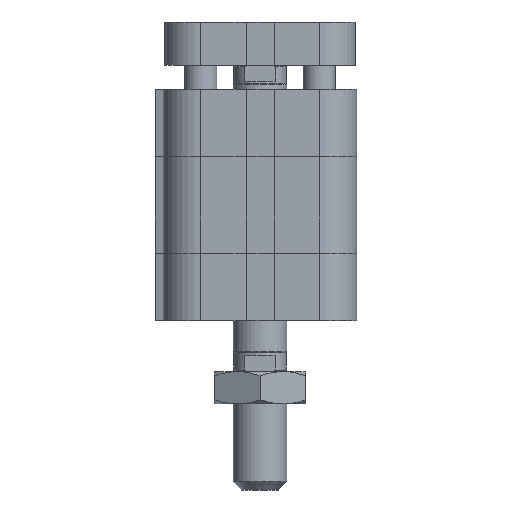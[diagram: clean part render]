
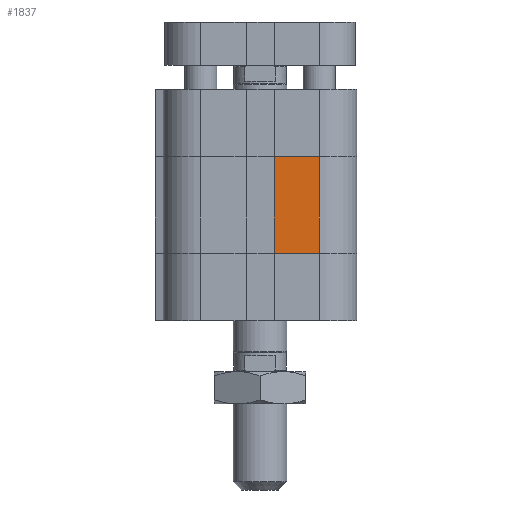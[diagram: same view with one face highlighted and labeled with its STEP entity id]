
A CAD part, left-side view. The second image highlights one B-rep face of the part: STEP entity #1837.
In plain terms, the highlighted planar face has unit normal (-1, 0, 0).
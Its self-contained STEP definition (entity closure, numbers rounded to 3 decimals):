
#1750=CARTESIAN_POINT('',(-18.0,-2.6,12.5));
#1751=VERTEX_POINT('',#1750);
#1758=CARTESIAN_POINT('',(-18.0,-2.6,30.5));
#1759=VERTEX_POINT('',#1758);
#1760=CARTESIAN_POINT('',(-18.0,-2.6,12.5));
#1761=DIRECTION('',(0.0,0.0,1.0));
#1762=VECTOR('',#1761,18.);
#1763=LINE('',#1760,#1762);
#1764=EDGE_CURVE('',#1751,#1759,#1763,.T.);
#1807=CARTESIAN_POINT('',(-18.,-11.0,0.0));
#1808=DIRECTION('',(-1.0,0.0,0.0));
#1809=DIRECTION('',(0.0,0.0,1.0));
#1810=AXIS2_PLACEMENT_3D('',#1807,#1808,#1809);
#1811=PLANE('',#1810);
#1812=CARTESIAN_POINT('',(-18.,-11.0,12.5));
#1813=VERTEX_POINT('',#1812);
#1814=CARTESIAN_POINT('',(-18.0,-2.6,12.5));
#1815=DIRECTION('',(0.0,-1.0,0.0));
#1816=VECTOR('',#1815,8.4);
#1817=LINE('',#1814,#1816);
#1818=EDGE_CURVE('',#1751,#1813,#1817,.T.);
#1819=ORIENTED_EDGE('',*,*,#1818,.T.);
#1820=CARTESIAN_POINT('',(-18.,-11.0,30.5));
#1821=VERTEX_POINT('',#1820);
#1822=CARTESIAN_POINT('',(-18.,-11.0,12.5));
#1823=DIRECTION('',(0.0,0.0,1.0));
#1824=VECTOR('',#1823,18.);
#1825=LINE('',#1822,#1824);
#1826=EDGE_CURVE('',#1813,#1821,#1825,.T.);
#1827=ORIENTED_EDGE('',*,*,#1826,.T.);
#1828=CARTESIAN_POINT('',(-18.0,-2.6,30.5));
#1829=DIRECTION('',(0.0,-1.0,0.0));
#1830=VECTOR('',#1829,8.4);
#1831=LINE('',#1828,#1830);
#1832=EDGE_CURVE('',#1759,#1821,#1831,.T.);
#1833=ORIENTED_EDGE('',*,*,#1832,.F.);
#1834=ORIENTED_EDGE('',*,*,#1764,.F.);
#1835=EDGE_LOOP('',(#1819,#1827,#1833,#1834));
#1836=FACE_OUTER_BOUND('',#1835,.T.);
#1837=ADVANCED_FACE('',(#1836),#1811,.T.);
